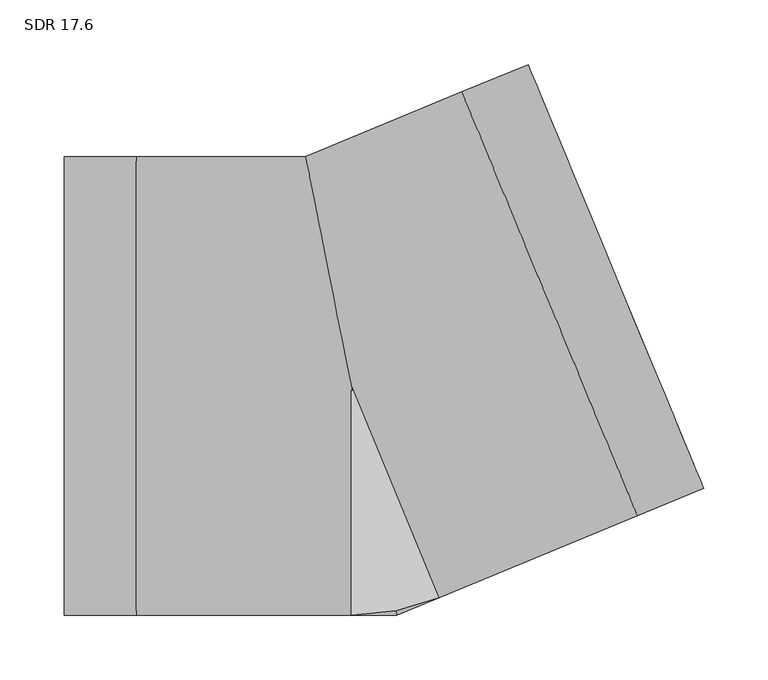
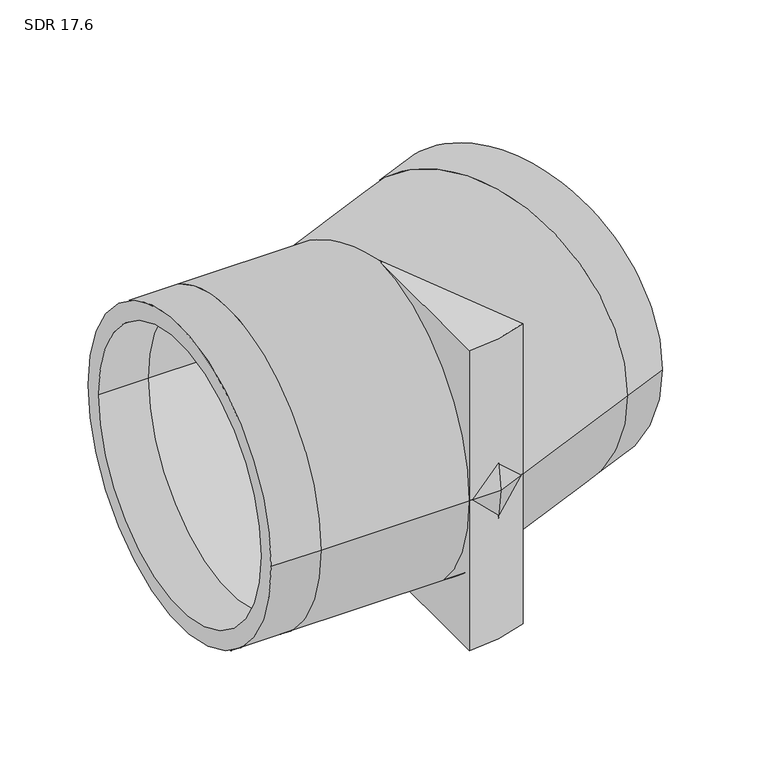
"""IFC4 building model written with IfcOpenShell, lengths in millimetres: pipe fitting geometry, Aquatherm - Elbow Blue BW Segmented : SDR 17.6."""

from ifc_helpers import new_model, si_unit, point, frame, origin, origin_with_axes, origin_2d, place, context, project, spatial, polyline, circle_curve, ellipse_curve, trimmed, segment, composite_curve, outline, extrude, source, transform, mapped, element, save
from ifc_brep_helpers import plane_surface, cylinder_surface, revolved_surface, advanced_brep


def sdr_17_6_dc80ac06(model_context):
    return source(origin(), model_context, "Body", "SolidModel", [
        extrude(outline(composite_curve([segment(polyline([(0.0, -177.8), (0.0, 0.0), (68.0411143, -164.2657809)]), True, "CONTINUOUS"), segment(trimmed(circle_curve(origin_2d(), 177.8), [point((68.0411143, -164.2657809))], [point((0.0, -177.8))], False, "CARTESIAN"), True, "CONTINUOUS")], self_intersect=False)), frame((0.0, 0.0, -177.8), z_axis=(0.0, 0.0, 1.0), x_axis=(1.0, 0.0, 0.0)), (0.0, 0.0, 1.0), 177.8),
        extrude(outline(composite_curve([segment(trimmed(circle_curve(origin_2d(), 177.8), [point((68.0411143, -164.2657809))], [point((0.0, -177.8))], False, "CARTESIAN"), True, "CONTINUOUS"), segment(polyline([(0.0, -177.8), (0.0, 0.0), (68.0411143, -164.2657809)]), True, "CONTINUOUS")], self_intersect=False)), origin_with_axes(), (0.0, 0.0, 1.0), 177.8),
        advanced_brep(
        [(-222.25, -177.8, 0.0), (-222.25, 177.8, 0.0), (-222.25, -157.5972481, 0.0), (-222.25, 157.5972481, 0.0), (273.3733404, -79.214388, 0.0), (137.2911118, 249.3171737, 0.0), (265.6420819, -60.5494791, 0.0), (145.0223703, 230.6522648, 0.0), (-166.6875, -177.8, 0.0), (-166.6875, 177.8, 0.0), (-166.6875, -157.5972481, 0.0), (-166.6875, 157.5972481, 0.0), (35.3666189, -177.8, 0.0), (-35.3666189, 177.8, 0.0), (31.3480417, -157.5972481, 0.0), (-31.3480417, 157.5972481, 0.0), (222.0402838, -100.4772362, 0.0), (85.9580553, 228.0543255, 0.0), (214.3090254, -81.8123273, 0.0), (93.6893137, 209.3894165, 0.0)],
        [
            (0, 1, circle_curve(frame((-222.25, 0.0, 0.0), z_axis=(-1.0, 0.0, 0.0), x_axis=(0.0, 1.0, 0.0)), 177.8)),
            (1, 0, circle_curve(frame((-222.25, 0.0, 0.0), z_axis=(-1.0, 0.0, 0.0), x_axis=(0.0, 1.0, 0.0)), 177.8)),
            (2, 3, circle_curve(frame((-222.25, 0.0, 0.0), z_axis=(1.0, 0.0, 0.0), x_axis=(0.0, 1.0, 0.0)), 157.5972481)),
            (3, 2, circle_curve(frame((-222.25, 0.0, 0.0), z_axis=(1.0, 0.0, 0.0), x_axis=(0.0, 1.0, 0.0)), 157.5972481)),
            (4, 5, circle_curve(frame((205.3322261, 85.0513928, 0.0), z_axis=(0.9238795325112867, 0.3826834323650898, 0.0), x_axis=(-0.3826834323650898, 0.9238795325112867, 0.0)), 177.8)),
            (5, 4, circle_curve(frame((205.3322261, 85.0513928, 0.0), z_axis=(0.9238795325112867, 0.3826834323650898, 0.0), x_axis=(-0.3826834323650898, 0.9238795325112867, 0.0)), 177.8)),
            (6, 7, circle_curve(frame((205.3322261, 85.0513928, 0.0), z_axis=(-0.9238795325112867, -0.3826834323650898, 0.0), x_axis=(-0.3826834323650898, 0.9238795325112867, 0.0)), 157.5972481)),
            (7, 6, circle_curve(frame((205.3322261, 85.0513928, 0.0), z_axis=(-0.9238795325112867, -0.3826834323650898, 0.0), x_axis=(-0.3826834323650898, 0.9238795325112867, 0.0)), 157.5972481)),
            (0, 8),
            (8, 9, circle_curve(frame((-166.6875, 0.0, 0.0), z_axis=(-1.0, 0.0, 0.0), x_axis=(0.0, 1.0, 0.0)), 177.8)),
            (9, 1),
            (9, 8, circle_curve(frame((-166.6875, 0.0, 0.0), z_axis=(-1.0, 0.0, 0.0), x_axis=(0.0, 1.0, 0.0)), 177.8)),
            (2, 10),
            (10, 11, circle_curve(frame((-166.6875, 0.0, 0.0), z_axis=(1.0, 0.0, 0.0), x_axis=(0.0, 1.0, 0.0)), 157.5972481)),
            (11, 3),
            (11, 10, circle_curve(frame((-166.6875, 0.0, 0.0), z_axis=(1.0, 0.0, 0.0), x_axis=(0.0, 1.0, 0.0)), 157.5972481)),
            (8, 12),
            (12, 13, ellipse_curve(frame((0.0, 0.0, 0.0), z_axis=(-0.9807852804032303, -0.19509032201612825, 0.0), x_axis=(-0.19509032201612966, 0.9807852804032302, 0.0)), 181.2833079, 177.8)),
            (13, 9),
            (13, 12, ellipse_curve(frame((0.0, 0.0, 0.0), z_axis=(-0.9807852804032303, -0.19509032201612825, 0.0), x_axis=(-0.19509032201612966, 0.9807852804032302, 0.0)), 181.2833079, 177.8)),
            (10, 14),
            (14, 15, ellipse_curve(frame((0.0, 0.0, 0.0), z_axis=(0.9807852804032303, 0.19509032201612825, 0.0), x_axis=(0.19509032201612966, -0.9807852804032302, 0.0)), 160.6847607, 157.5972481)),
            (15, 11),
            (15, 14, ellipse_curve(frame((0.0, 0.0, 0.0), z_axis=(0.9807852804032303, 0.19509032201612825, 0.0), x_axis=(0.19509032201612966, -0.9807852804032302, 0.0)), 160.6847607, 157.5972481)),
            (12, 16),
            (16, 17, circle_curve(frame((153.9991696, 63.7885446, 0.0), z_axis=(-0.9238795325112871, -0.38268343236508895, 0.0), x_axis=(-0.38268343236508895, 0.9238795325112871, 0.0)), 177.8)),
            (17, 13),
            (17, 16, circle_curve(frame((153.9991696, 63.7885446, 0.0), z_axis=(-0.9238795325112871, -0.38268343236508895, 0.0), x_axis=(-0.38268343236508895, 0.9238795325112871, 0.0)), 177.8)),
            (14, 18),
            (18, 19, circle_curve(frame((153.9991696, 63.7885446, 0.0), z_axis=(0.9238795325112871, 0.38268343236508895, 0.0), x_axis=(-0.38268343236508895, 0.9238795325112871, 0.0)), 157.5972481)),
            (19, 15),
            (19, 18, circle_curve(frame((153.9991696, 63.7885446, 0.0), z_axis=(0.9238795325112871, 0.38268343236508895, 0.0), x_axis=(-0.38268343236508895, 0.9238795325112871, 0.0)), 157.5972481)),
            (16, 4),
            (5, 17),
            (18, 6),
            (7, 19),
        ],
        [
            plane_surface(frame((-222.25, 0.0, 0.0), z_axis=(-1.0, 0.0, 0.0), x_axis=(0.0, 0.0, 1.0))),
            plane_surface(frame((205.3322261, 85.0513928, 0.0), z_axis=(0.9238795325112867, 0.3826834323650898, 0.0), x_axis=(0.0, 0.0, 1.0))),
            cylinder_surface(frame((-222.25, 0.0, 0.0), z_axis=(-1.0, 0.0, 0.0), x_axis=(0.0, 1.0, 0.0)), 177.8),
            revolved_surface(polyline([(-166.6875, 157.5972481, 0.0), (-222.25, 157.5972481, 0.0)]), (-222.25, 0.0, 0.0), (1.0, 0.0, 0.0)),
            cylinder_surface(frame((-166.6875, 0.0, 0.0), z_axis=(-1.0, 0.0, 0.0), x_axis=(0.0, 1.0, 0.0)), 177.8),
            revolved_surface(polyline([(31.34804170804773, 157.5972481, 0.0), (-166.6875, 157.5972481, 0.0)]), (-166.6875, 0.0, 0.0), (1.0, 0.0, 0.0)),
            cylinder_surface(frame((0.0, 0.0, 0.0), z_axis=(-0.9238795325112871, -0.38268343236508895, 0.0), x_axis=(-0.38268343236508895, 0.9238795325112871, 0.0)), 177.8),
            revolved_surface(polyline([(93.68931375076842, 209.38941653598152, 0.0), (-89.27166996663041, 133.6044956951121, 0.0)]), (0.0, 0.0, 0.0), (0.9238795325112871, 0.38268343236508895, 0.0)),
            cylinder_surface(frame((153.9991696, 63.7885446, 0.0), z_axis=(-0.9238795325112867, -0.3826834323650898, 0.0), x_axis=(-0.3826834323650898, 0.9238795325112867, 0.0)), 177.8),
            revolved_surface(polyline([(145.0223703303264, 230.6522647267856, 0.0), (93.68931370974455, 209.3894164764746, 0.0)]), (153.9991696, 63.7885446, 0.0), (0.9238795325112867, 0.3826834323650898, 0.0)),
        ],
        [
            (0, [[1, 2], [3, 4]]),
            (1, [[5, 6], [7, 8]]),
            (2, [[-1, 9, 10, 11]]),
            (2, [[-2, -11, 12, -9]]),
            (3, [[-3, 13, 14, 15]]),
            (3, [[-4, -15, 16, -13]]),
            (4, [[-10, 17, 18, 19]]),
            (4, [[-12, -19, 20, -17]]),
            (5, [[-14, 21, 22, 23]]),
            (5, [[-16, -23, 24, -21]]),
            (6, [[-18, 25, 26, 27]]),
            (6, [[-20, -27, 28, -25]]),
            (7, [[-22, 29, 30, 31]]),
            (7, [[-24, -31, 32, -29]]),
            (8, [[-26, 33, -6, 34]]),
            (8, [[-28, -34, -5, -33]]),
            (9, [[-30, 35, -8, 36]]),
            (9, [[-32, -36, -7, -35]]),
        ],
    ),
    ])


if __name__ == "__main__":
    model = new_model("IFC4")
    model_context = context("Model", 3, world=origin())
    ifc_project = project(units=[si_unit("LENGTHUNIT", "METRE", prefix="MILLI")], contexts=[model_context])
    site = spatial("IfcSite", under=ifc_project)
    building = spatial("IfcBuilding", under=site)
    placement = place(None, origin())
    sdr_17_6_shape = sdr_17_6_dc80ac06(model_context)
    element("IfcPipeFitting", 1, ObjectType="Aquatherm - Elbow Blue BW Segmented : SDR 17.6", at=placement, inside=building, context=model_context, shape_type="MappedRepresentation", body=[
        mapped(sdr_17_6_shape, transform((0.0, 0.0, 0.0), x_axis=(1.0, 0.0, 0.0), y_axis=(0.0, 1.0, 0.0), z_axis=(0.0, 0.0, 1.0))),
    ])
    save(model, "model.ifc")
